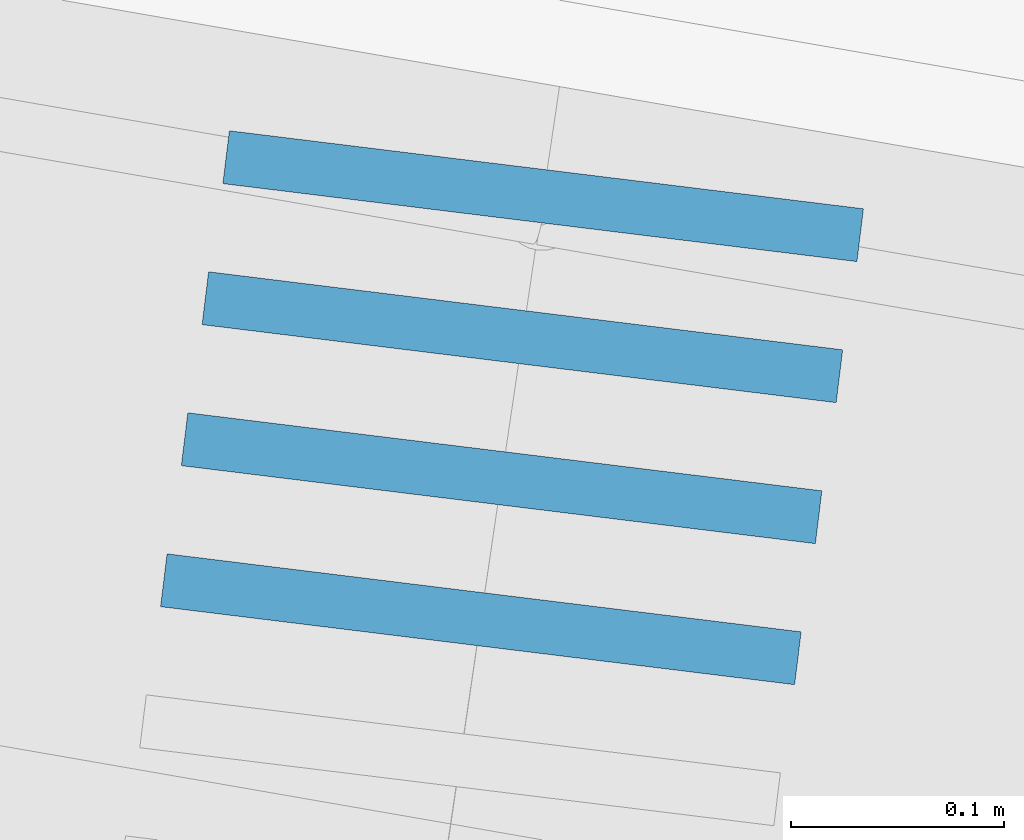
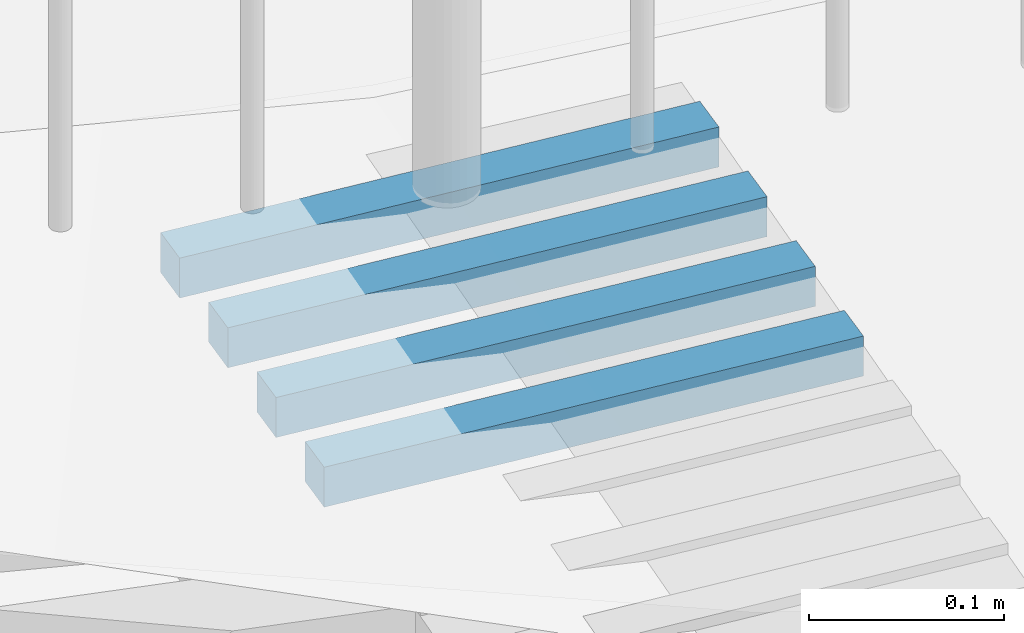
# Not in any storey, part 3 of 45: 4 members.
"""IFC4 model written with IfcOpenShell, lengths in metres."""

from ifc_helpers import new_model, si_unit, direction, frame, origin_with_axes, place, context, subcontext, project, spatial, rectangle, extrude, material, material_profile, profile_set, profile_usage, type_object, element, save


model = new_model("IFC4")

# Units and contexts
model_context = context("Model", 3, precision=1e-05, world=origin_with_axes(), true_north=direction((0.0, 1.0)))
body_context = subcontext(model_context, "Body", "Model", "MODEL_VIEW")
ifc_project = project(units=[si_unit("VOLUMEUNIT", "CUBIC_METRE"), si_unit("LENGTHUNIT", "METRE"), si_unit("AREAUNIT", "SQUARE_METRE")], contexts=[model_context])

# Site
site_placement = place(None, origin_with_axes())
site = spatial("IfcSite", under=ifc_project, at=site_placement, Name="Lares · Rua das Mercês · artigo 4771")

# Members
ifc_material = material(Name="Aço galvanizado / Stahl verzinkt", Category="steel")
ifc_material_profile = material_profile(ifc_material, rectangle(XDim=0.025, YDim=0.025))
ifc_profile_set = profile_set([ifc_material_profile], Name="R0.025")
ifc_profile_usage_1 = profile_usage(ifc_profile_set)
member_type = type_object("IfcMemberType", Name="R0.025 / galvanized", PredefinedType="NOTDEFINED", material=ifc_profile_set)
member_1_placement = place(site_placement, frame((49.6781709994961, 11.0957623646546, 15.4829738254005), z_axis=(0.992517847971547, -0.12209963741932, 0.0), x_axis=(-0.12209963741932, -0.992517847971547, 0.0)))
element("IfcMember", 1, at=member_1_placement, inside=site, type_object=member_type, material=ifc_profile_usage_1, Name="Interceção · grelha estacionamento", context=body_context, shape_type="SweptSolid", body=[
    extrude(rectangle(XDim=0.025, YDim=0.025), origin_with_axes(), (0.0, 0.0, 1.0), 0.300000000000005),
])
ifc_profile_usage_2 = profile_usage(ifc_profile_set)
member_2_placement = place(site_placement, frame((49.687922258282, 11.1619855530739, 15.4829738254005), z_axis=(0.992517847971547, -0.12209963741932, 0.0), x_axis=(-0.12209963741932, -0.992517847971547, 0.0)))
element("IfcMember", 2, at=member_2_placement, inside=site, type_object=member_type, material=ifc_profile_usage_2, Name="Interceção · grelha estacionamento", context=body_context, shape_type="SweptSolid", body=[
    extrude(rectangle(XDim=0.025, YDim=0.025), origin_with_axes(), (0.0, 0.0, 1.0), 0.300000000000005),
])
ifc_profile_usage_3 = profile_usage(ifc_profile_set)
member_3_placement = place(site_placement, frame((49.697673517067, 11.2282087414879, 15.4829738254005), z_axis=(0.992517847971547, -0.12209963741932, 0.0), x_axis=(-0.12209963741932, -0.992517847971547, 0.0)))
element("IfcMember", 3, at=member_3_placement, inside=site, type_object=member_type, material=ifc_profile_usage_3, Name="Interceção · grelha estacionamento", context=body_context, shape_type="SweptSolid", body=[
    extrude(rectangle(XDim=0.025, YDim=0.025), origin_with_axes(), (0.0, 0.0, 1.0), 0.300000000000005),
])
ifc_profile_usage_4 = profile_usage(ifc_profile_set)
member_4_placement = place(site_placement, frame((49.7074247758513, 11.2944319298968, 15.4829738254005), z_axis=(0.992517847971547, -0.12209963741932, 0.0), x_axis=(-0.12209963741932, -0.992517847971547, 0.0)))
element("IfcMember", 4, at=member_4_placement, inside=site, type_object=member_type, material=ifc_profile_usage_4, Name="Interceção · grelha estacionamento", context=body_context, shape_type="SweptSolid", body=[
    extrude(rectangle(XDim=0.025, YDim=0.025), origin_with_axes(), (0.0, 0.0, 1.0), 0.300000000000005),
])

save(model, "model.ifc")
